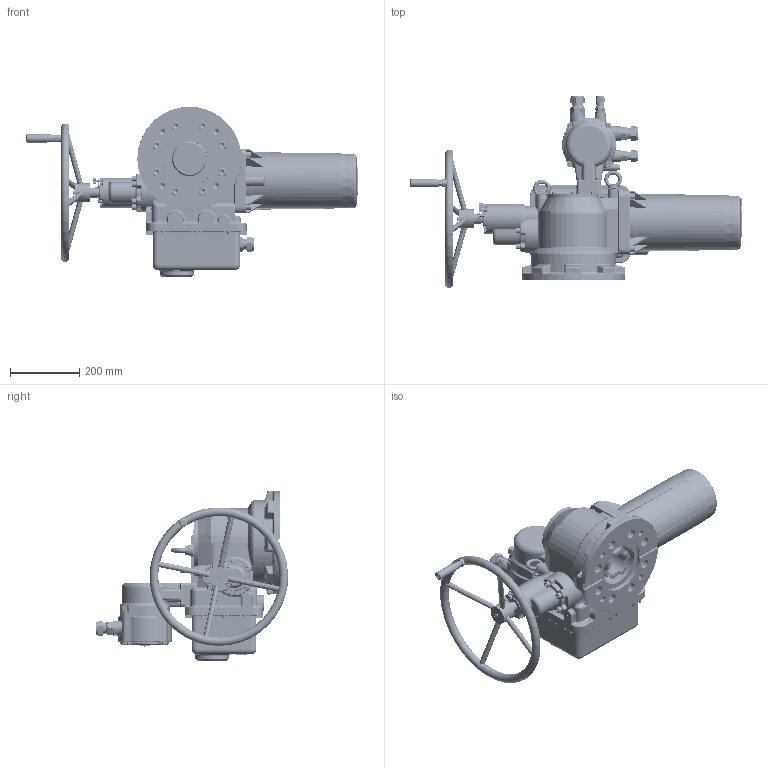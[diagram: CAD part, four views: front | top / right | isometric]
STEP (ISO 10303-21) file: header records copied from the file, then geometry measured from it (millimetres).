
FILE_DESCRIPTION(('STEP AP242'), '1');
FILE_NAME('9034B 3kW long', '', ('UNSPECIFIED'), ('UNSPECIFIED'), 'C3D Converter', 'C3D Toolkit', '');
FILE_SCHEMA(('AP242_MANAGED_MODEL_BASED_3D_ENGINEERING_MIM_LF { 1 0 10303 442 1 1 4 }'));
Length unit declared in the file: millimetre
Products named in the file (1): ГЗ-ВВ L=485
Bounding box: 958.9 x 554.87 x 492 mm (x, y, z)
Volume: 109182 mm3; surface area: 2537114.1 mm2
Topology: 5 solids, 97 shells, 7592 faces, 20408 edges, 13311 vertices
Faces by surface type: plane 3697, cylinder 1811, bspline 1035, cone 535, torus 443, sphere 71
Full cylindrical faces by diameter (mm): 2 x3, 2.2 x4, 2.459 x2, 2.5 x1, 2.675 x2, 3 x4, 3.2 x7, 3.242 x4, 3.5 x1, 4 x7, 4.134 x13, 4.2 x1, 4.5 x3, 4.6 x1, 4.8 x6, 4.917 x24, 5 x10, 6 x42, 6.1 x1, 6.5 x9, 6.647 x3, 7 x31, 8 x9, 8.376 x1, 8.5 x7, 8.9 x7, 9.3 x1, 10 x41, 10.106 x4, 10.2 x1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
Entity records: 419210 total; most frequent: CARTESIAN_POINT 182470, ORIENTED_EDGE 38319, DIRECTION 32553, EDGE_CURVE 19177, VERTEX_POINT 13146, AXIS2_PLACEMENT_3D 12240, EDGE_LOOP 9174, FACE_BOUND 8682
